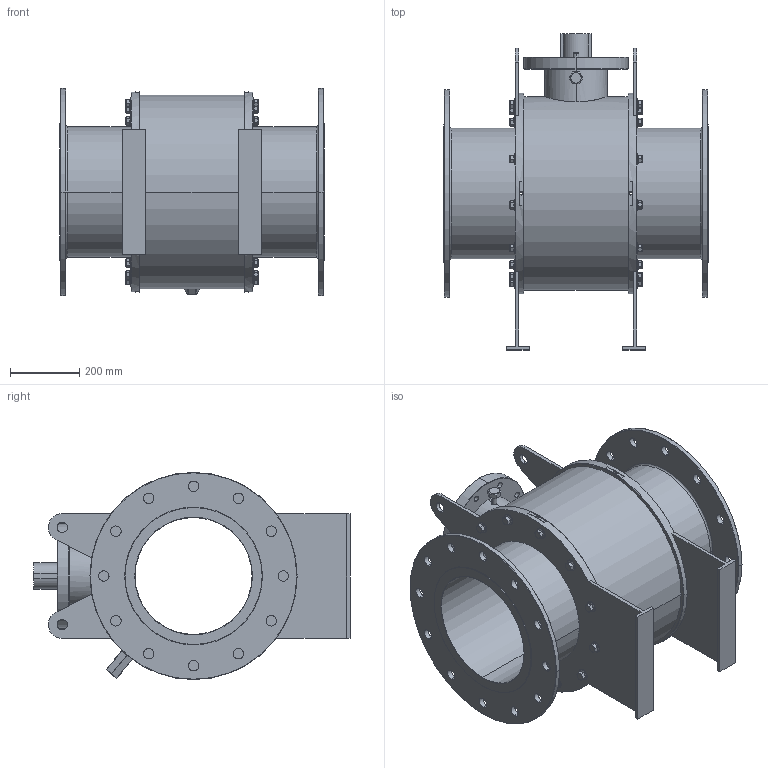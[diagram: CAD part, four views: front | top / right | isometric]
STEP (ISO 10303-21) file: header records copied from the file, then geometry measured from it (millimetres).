
FILE_DESCRIPTION (( 'STEP AP203' ), '1' );
FILE_NAME ('GB2_ANSI_300_14IN_TW.STEP', '2025-10-10T19:05:00', ( '' ), ( '' ), 'SwSTEP 2.0', 'SolidWorks 2025', '' );
FILE_SCHEMA (( 'CONFIG_CONTROL_DESIGN' ));
Length unit declared in the file: millimetre
Products named in the file (3): GB2_ANSI_300_14IN_TW; GB2_ANSI_2500_1500_ANSI_300_14IN; hex flange screw_am_B18.2.3.4M - Hex flange screw, M16 x 2.0 x 25 --25N
Assembly tree (25 placements, depth 2):
  GB2_ANSI_300_14IN_TW
    GB2_ANSI_2500_1500_ANSI_300_14IN
    hex flange screw_am_B18.2.3.4M - Hex flange screw, M16 x 2.0 x 25 --25N  x24
Bounding box: 762 x 911 x 597 mm (x, y, z)
Volume: 76494155.7 mm3; surface area: 3802646.6 mm2
Topology: 25 solids, 25 shells, 1041 faces, 2326 edges, 1392 vertices
Faces by surface type: plane 325, cone 270, cylinder 230, bspline 156, torus 54, sphere 6
Entity records: 13957 total; most frequent: CARTESIAN_POINT 3940, DIRECTION 2022, ORIENTED_EDGE 1792, EDGE_CURVE 896, AXIS2_PLACEMENT_3D 820, VERTEX_POINT 562, EDGE_LOOP 492, CIRCLE 436
